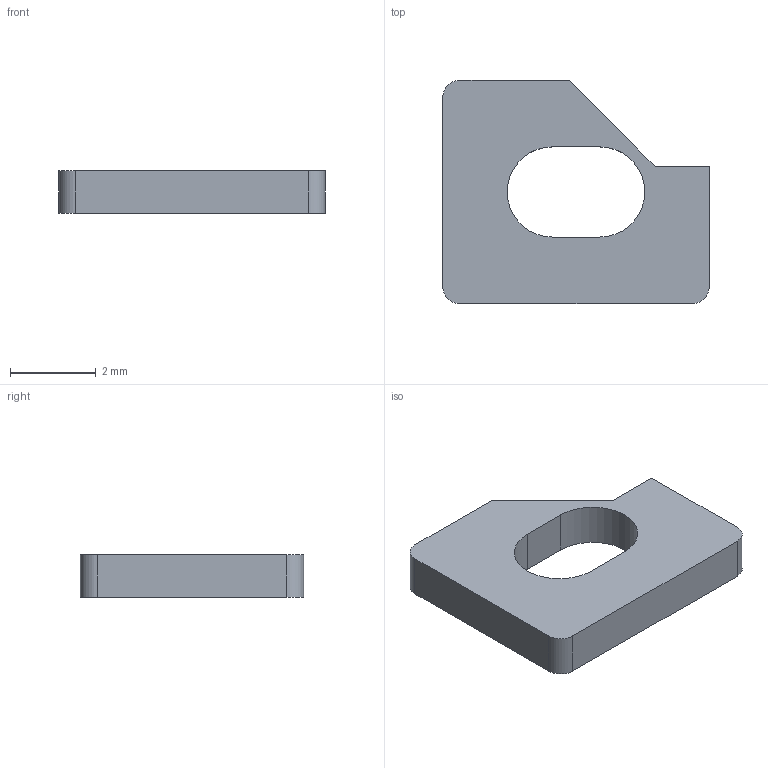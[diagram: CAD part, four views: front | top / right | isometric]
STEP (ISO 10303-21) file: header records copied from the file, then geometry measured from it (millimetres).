
FILE_DESCRIPTION(('Open CASCADE Model'),'2;1');
FILE_NAME('Open CASCADE Shape Model','2026-09-13T21:07:18',('Author'),( 'Open CASCADE'),'Open CASCADE STEP processor 7.9','Open CASCADE 7.9' ,'Unknown');
FILE_SCHEMA(('AUTOMOTIVE_DESIGN { 1 0 10303 214 1 1 1 1 }'));
Length unit declared in the file: millimetre
Products named in the file (1): Open CASCADE STEP translator 7.9 5
Bounding box: 6.2 x 5.2 x 1 mm (x, y, z)
Volume: 21.8 mm3; surface area: 73.6 mm2
Topology: 1 solids, 1 shells, 15 faces, 39 edges, 26 vertices
Faces by surface type: plane 10, cylinder 5
Entity records: 988 total; most frequent: CARTESIAN_POINT 227, DIRECTION 131, ORIENTED_EDGE 78, PCURVE 78, DEFINITIONAL_REPRESENTATION 78, LINE 77, VECTOR 77, EDGE_CURVE 39
